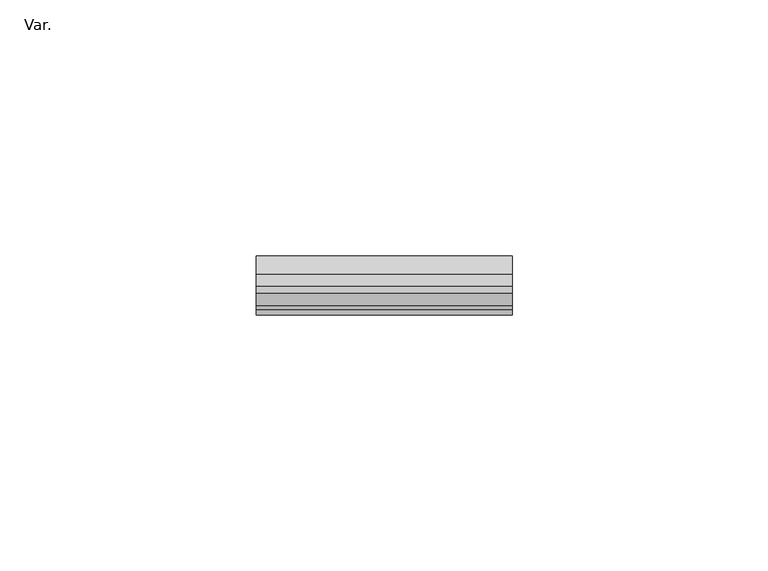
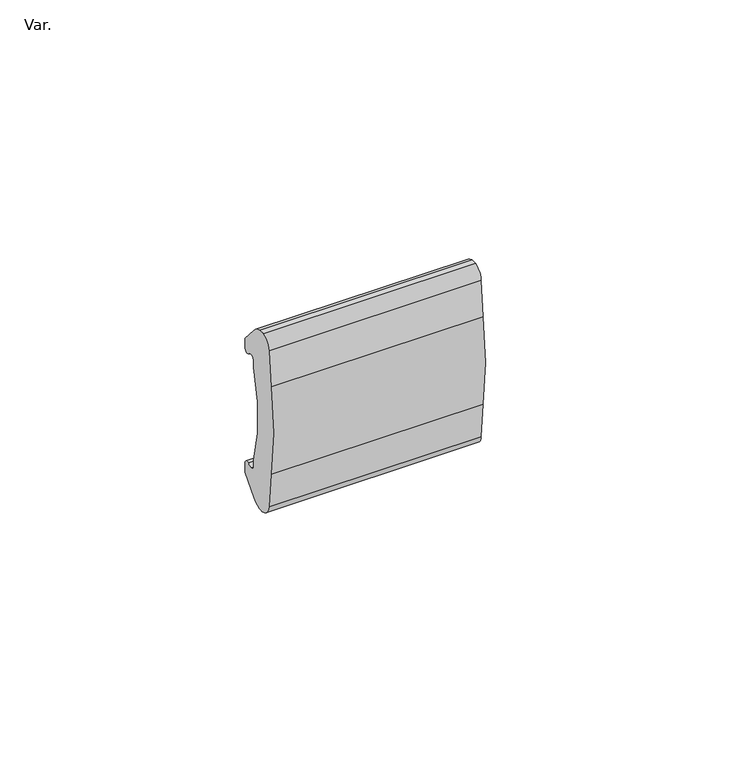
"""IFC4 building model written with IfcOpenShell, lengths in millimetres: pipe fitting geometry, AmancoWavin_ConexõesdeTubos_PBAZNãoUsarTravadoColardetomada : Var.."""

from ifc_helpers import new_model, si_unit, point, frame, frame_2d, origin, place, context, project, spatial, polyline, circle_curve, trimmed, segment, composite_curve, outline, extrude, source, transform, mapped, element, save


def var_f00af9f6(model_context):
    return source(origin(), model_context, "Body", "SweptSolid", [
        extrude(outline(composite_curve([segment(trimmed(circle_curve(frame_2d((-0.9093008, 14.3767926)), 0.9109313), [point((0.0, 14.4312711))], [point((-1.356877, 13.5834002))], False, "CARTESIAN"), True, "CONTINUOUS"), segment(trimmed(circle_curve(frame_2d((-2.5006222, 12.6497219)), 1.4764512), [point((-1.356877, 13.5834002))], [point((-2.4417755, 14.125))], True, "CARTESIAN"), True, "CONTINUOUS"), segment(trimmed(circle_curve(frame_2d((-2.4417755, 13.025)), 1.1), [point((-2.4417755, 14.125))], [point((-3.5417755, 13.025))], True, "CARTESIAN"), True, "CONTINUOUS"), segment(polyline([(-3.5417755, 13.025), (-3.5417755, 11.6028657)]), True, "CONTINUOUS"), segment(trimmed(circle_curve(frame_2d((32.4653185, 0.0)), 37.8303755), [point((-3.5417755, 11.6028657))], [point((-3.5417755, -11.6028657))], True, "CARTESIAN"), True, "CONTINUOUS"), segment(polyline([(-3.5417755, -11.6028657), (-3.5417755, -13.025)]), True, "CONTINUOUS"), segment(trimmed(circle_curve(frame_2d((-2.4417755, -13.025)), 1.1), [point((-3.5417755, -13.025))], [point((-2.4417755, -14.125))], True, "CARTESIAN"), True, "CONTINUOUS"), segment(trimmed(circle_curve(frame_2d((-2.5006222, -12.6497219)), 1.4764512), [point((-2.4417755, -14.125))], [point((-1.356877, -13.5834002))], True, "CARTESIAN"), True, "CONTINUOUS"), segment(trimmed(circle_curve(frame_2d((-0.9093008, -14.3767926)), 0.9109313), [point((-1.356877, -13.5834002))], [point((0.0, -14.4312711))], False, "CARTESIAN"), True, "CONTINUOUS"), segment(polyline([(0.0, -14.4312711), (0.0, -16.6806516), (-3.598839, -20.8206422)]), True, "CONTINUOUS"), segment(trimmed(circle_curve(frame_2d((-6.8959325, -17.9545225)), 4.3686918), [point((-3.598839, -20.8206422))], [point((-5.9131907, -22.211245))], False, "CARTESIAN"), True, "CONTINUOUS"), segment(trimmed(circle_curve(frame_2d((-6.6131907, -19.1792119)), 3.111788), [point((-5.9131907, -22.211245))], [point((-7.9609068, -21.9840089))], False, "CARTESIAN"), True, "CONTINUOUS"), segment(trimmed(circle_curve(frame_2d((-6.6131907, -19.1792119)), 3.111788), [point((-7.9609068, -21.9840089))], [point((-9.7113816, -19.4697936))], False, "CARTESIAN"), True, "CONTINUOUS"), segment(polyline([(-9.7113816, -19.4697936), (-10.5156487, -10.8946748)]), True, "CONTINUOUS"), segment(trimmed(circle_curve(frame_2d((47.0531115, 0.0)), 58.5905802), [point((-10.5156487, -10.8946748))], [point((-10.5156487, 10.8946748))], False, "CARTESIAN"), True, "CONTINUOUS"), segment(polyline([(-10.5156487, 10.8946748), (-9.7113816, 19.4697936)]), True, "CONTINUOUS"), segment(trimmed(circle_curve(frame_2d((-6.6131907, 19.1792119)), 3.111788), [point((-9.7113816, 19.4697936))], [point((-7.3131907, 22.211245))], False, "CARTESIAN"), True, "CONTINUOUS"), segment(trimmed(circle_curve(frame_2d((-6.6131907, 19.1792119)), 3.111788), [point((-7.3131907, 22.211245))], [point((-5.9131907, 22.211245))], False, "CARTESIAN"), True, "CONTINUOUS"), segment(trimmed(circle_curve(frame_2d((-6.8959325, 17.9545225)), 4.3686918), [point((-5.9131907, 22.211245))], [point((-3.598839, 20.8206422))], False, "CARTESIAN"), True, "CONTINUOUS"), segment(polyline([(-3.598839, 20.8206422), (0.0, 16.6806516), (0.0, 14.4312711)]), True, "CONTINUOUS")], self_intersect=False)), frame((-25.0, 0.0, 0.0), z_axis=(1.0, 0.0, 0.0), x_axis=(0.0, 1.0, 0.0)), (0.0, 0.0, 1.0), 50.0),
    ])


if __name__ == "__main__":
    model = new_model("IFC4")
    model_context = context("Model", 3, world=origin())
    ifc_project = project(units=[si_unit("LENGTHUNIT", "METRE", prefix="MILLI")], contexts=[model_context])
    site = spatial("IfcSite", under=ifc_project)
    building = spatial("IfcBuilding", under=site)
    placement = place(None, origin())
    var_shape = var_f00af9f6(model_context)
    element("IfcPipeFitting", 1, ObjectType="AmancoWavin_ConexõesdeTubos_PBAZNãoUsarTravadoColardetomada : Var.", at=placement, inside=building, context=model_context, shape_type="MappedRepresentation", body=[
        mapped(var_shape, transform((0.0, 0.0, 0.0), x_axis=(1.0, 0.0, 0.0), y_axis=(0.0, 1.0, 0.0), z_axis=(0.0, 0.0, 1.0))),
    ])
    save(model, "model.ifc")
